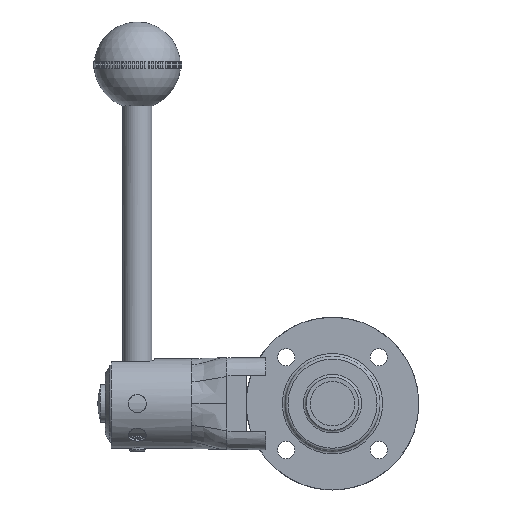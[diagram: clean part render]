
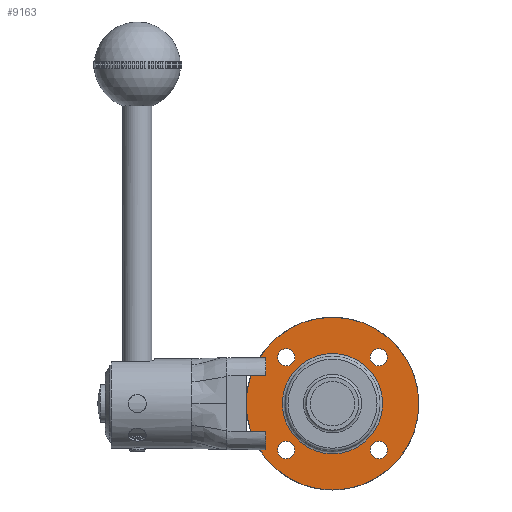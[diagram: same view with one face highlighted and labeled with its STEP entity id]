
A CAD part, left-side view. The second image highlights one B-rep face of the part: STEP entity #9163.
In plain terms, the highlighted planar face has unit normal (-1, 0, 0) as drawn and (1, 0, 0) by its records, which use the part's own axes.
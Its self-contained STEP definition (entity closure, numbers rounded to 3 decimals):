
#1447=FACE_BOUND('',#2590,.T.);
#1448=FACE_BOUND('',#2591,.T.);
#1449=FACE_BOUND('',#2592,.T.);
#1450=FACE_BOUND('',#2593,.T.);
#1451=FACE_BOUND('',#2594,.T.);
#1970=FACE_OUTER_BOUND('',#2589,.T.);
#2589=EDGE_LOOP('',(#7878));
#2590=EDGE_LOOP('',(#7879));
#2591=EDGE_LOOP('',(#7880));
#2592=EDGE_LOOP('',(#7881));
#2593=EDGE_LOOP('',(#7882));
#2594=EDGE_LOOP('',(#7883));
#3163=CIRCLE('',#10280,31.);
#3166=CIRCLE('',#10286,3.1);
#3167=CIRCLE('',#10288,3.1);
#3168=CIRCLE('',#10290,3.1);
#3169=CIRCLE('',#10292,3.1);
#3170=CIRCLE('',#10294,18.);
#4021=VERTEX_POINT('',#26478);
#4024=VERTEX_POINT('',#26488);
#4025=VERTEX_POINT('',#26492);
#4026=VERTEX_POINT('',#26496);
#4027=VERTEX_POINT('',#26500);
#4028=VERTEX_POINT('',#26504);
#5303=EDGE_CURVE('',#4021,#4021,#3163,.T.);
#5308=EDGE_CURVE('',#4024,#4024,#3166,.T.);
#5310=EDGE_CURVE('',#4025,#4025,#3167,.T.);
#5312=EDGE_CURVE('',#4026,#4026,#3168,.T.);
#5314=EDGE_CURVE('',#4027,#4027,#3169,.T.);
#5315=EDGE_CURVE('',#4028,#4028,#3170,.T.);
#7878=ORIENTED_EDGE('',*,*,#5303,.T.);
#7879=ORIENTED_EDGE('',*,*,#5308,.T.);
#7880=ORIENTED_EDGE('',*,*,#5310,.T.);
#7881=ORIENTED_EDGE('',*,*,#5312,.T.);
#7882=ORIENTED_EDGE('',*,*,#5314,.T.);
#7883=ORIENTED_EDGE('',*,*,#5315,.F.);
#8263=PLANE('',#10293);
#9163=ADVANCED_FACE('',(#1970,#1447,#1448,#1449,#1450,#1451),#8263,.T.);
#10280=AXIS2_PLACEMENT_3D('',#26479,#12808,#12809);
#10286=AXIS2_PLACEMENT_3D('',#26490,#12822,#12823);
#10288=AXIS2_PLACEMENT_3D('',#26494,#12827,#12828);
#10290=AXIS2_PLACEMENT_3D('',#26498,#12832,#12833);
#10292=AXIS2_PLACEMENT_3D('',#26502,#12837,#12838);
#10293=AXIS2_PLACEMENT_3D('',#26503,#12839,#12840);
#10294=AXIS2_PLACEMENT_3D('',#26505,#12841,#12842);
#12808=DIRECTION('center_axis',(1.,0.,0.));
#12809=DIRECTION('ref_axis',(0.,0.,-1.));
#12822=DIRECTION('center_axis',(-1.,0.,0.));
#12823=DIRECTION('ref_axis',(0.,1.,0.));
#12827=DIRECTION('center_axis',(-1.,0.,0.));
#12828=DIRECTION('ref_axis',(0.,0.,-1.));
#12832=DIRECTION('center_axis',(-1.,0.,0.));
#12833=DIRECTION('ref_axis',(0.,-1.,0.));
#12837=DIRECTION('center_axis',(-1.,0.,0.));
#12838=DIRECTION('ref_axis',(0.,0.,1.));
#12839=DIRECTION('center_axis',(1.,0.,0.));
#12840=DIRECTION('ref_axis',(0.,0.,-1.));
#12841=DIRECTION('center_axis',(1.,0.,0.));
#12842=DIRECTION('ref_axis',(0.,0.,-1.));
#26478=CARTESIAN_POINT('',(10.,-31.,0.));
#26479=CARTESIAN_POINT('Origin',(10.,0.,0.));
#26488=CARTESIAN_POINT('',(10.,13.517,-16.617));
#26490=CARTESIAN_POINT('Origin',(10.,16.617,-16.617));
#26492=CARTESIAN_POINT('',(10.,-16.617,-13.517));
#26494=CARTESIAN_POINT('Origin',(10.,-16.617,-16.617));
#26496=CARTESIAN_POINT('',(10.,-13.517,16.617));
#26498=CARTESIAN_POINT('Origin',(10.,-16.617,16.617));
#26500=CARTESIAN_POINT('',(10.,16.617,13.517));
#26502=CARTESIAN_POINT('Origin',(10.,16.617,16.617));
#26503=CARTESIAN_POINT('Origin',(10.,18.,0.));
#26504=CARTESIAN_POINT('',(10.,0.,18.));
#26505=CARTESIAN_POINT('Origin',(10.,0.,0.));
